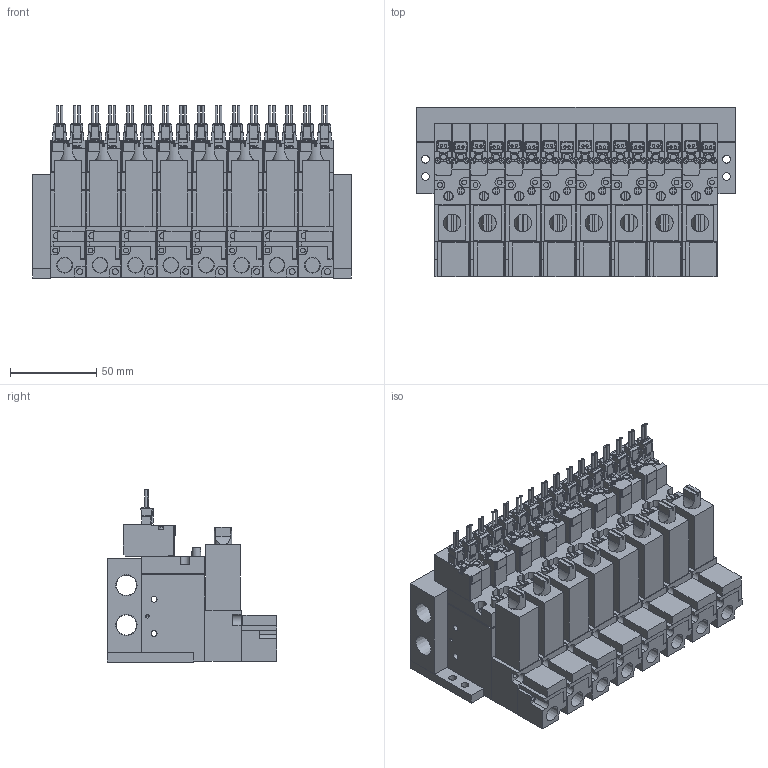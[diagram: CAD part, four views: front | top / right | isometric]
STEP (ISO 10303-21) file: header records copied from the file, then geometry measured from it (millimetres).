
FILE_DESCRIPTION(('STEP AP203'),'1');
FILE_NAME('BMPV32M2NZ25AL808.stp','2025-06-17T01:45:24',(' '),(' '),'Spatial InterOp 3D',' ',' ');
FILE_SCHEMA(('CONFIG_CONTROL_DESIGN'));
Length unit declared in the file: millimetre
Products named in the file (100): BMPV32M2NZ25AL808; S____; ___ ___2; ___-2(Rc); Filter Assy; __; _____; MB BRACKET; MB08; ___; upper plate-A; ______; ____; VACUUM VALVE FUNCTION MPV42-A; UV280-4E
Assembly tree (99 placements, depth 2):
  BMPV32M2NZ25AL808
    S____
    ___ ___2
    ___-2(Rc)
    Filter Assy
    __
    _____
    S____
    ___ ___2
    ___-2(Rc)
    Filter Assy
    __
    _____
    S____
    ___ ___2
    ___-2(Rc)
    Filter Assy
    __
    _____
    S____
    ___ ___2
    ___-2(Rc)
    Filter Assy
    __
    _____
    S____
    ___ ___2
    ___-2(Rc)
    Filter Assy
    __
    _____
    S____
    ___ ___2
    ___-2(Rc)
    Filter Assy
    __
    _____
    S____
    ___ ___2
    ___-2(Rc)
    Filter Assy
    __
    _____
    MB BRACKET
    MB08
    MB BRACKET
    S____
    ___ ___2
    ___-2(Rc)
    Filter Assy
    __
    _____
    ___
    upper plate-A
    ______
    ____
    VACUUM VALVE FUNCTION MPV42-A
    ___
    upper plate-A
    ______
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Bounding box: 184.5 x 98 x 99.75 mm (x, y, z)
Volume: 852917 mm3; surface area: 289470.3 mm2
Topology: 99 solids, 99 shells, 2919 faces, 7668 edges, 5080 vertices
Faces by surface type: plane 2373, cylinder 490, cone 56
Full cylindrical faces by diameter (mm): 1.4 x32, 1.8 x16, 2 x16, 2.5 x20, 2.8 x32, 3 x32, 3.5 x84, 4 x8, 4.2 x8, 4.5 x4, 5 x8, 5.5 x8, 6.5 x6, 8.522 x8, 11.776 x2
Entity records: 92398 total; most frequent: CARTESIAN_POINT 15807, DIRECTION 14442, ORIENTED_EDGE 14392, EDGE_CURVE 7196, LINE 5924, VECTOR 5924, VERTEX_POINT 5000, AXIS2_PLACEMENT_3D 4259
